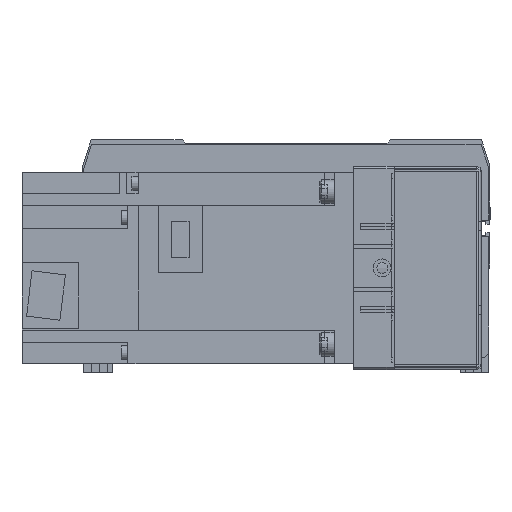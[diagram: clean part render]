
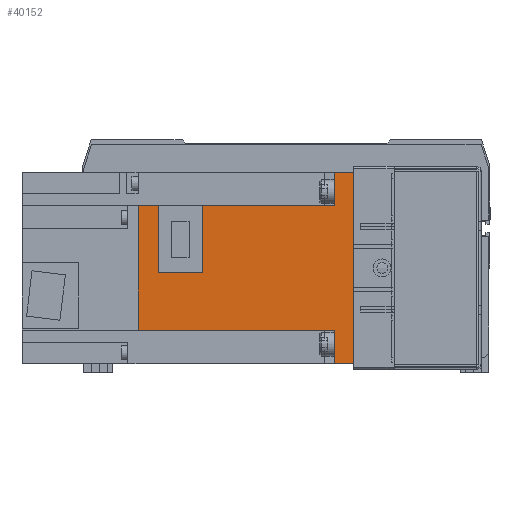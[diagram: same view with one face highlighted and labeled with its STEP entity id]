
A CAD part, front view. The second image highlights one B-rep face of the part: STEP entity #40152.
In plain terms, the highlighted planar face has unit normal (0, -1, 0) as drawn and (1, 0, 0) by its records, which use the part's own axes.
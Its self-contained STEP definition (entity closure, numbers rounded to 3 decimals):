
#324 = CARTESIAN_POINT ( 'NONE',  ( 40., 8., 40. ) ) ;
#798 = DIRECTION ( 'NONE',  ( 0., 0., 1. ) ) ;
#1024 = LINE ( 'NONE', #15017, #30533 ) ;
#2591 = EDGE_CURVE ( 'NONE', #36436, #36867, #36330, .T. ) ;
#3530 = CARTESIAN_POINT ( 'NONE',  ( 40., 62.8, 40. ) ) ;
#3852 = DIRECTION ( 'NONE',  ( 0., 1., 0. ) ) ;
#4168 = CARTESIAN_POINT ( 'NONE',  ( 40., 89.8, 40. ) ) ;
#4532 = VECTOR ( 'NONE', #41914, 1000. ) ;
#4734 = LINE ( 'NONE', #3530, #24259 ) ;
#4822 = CARTESIAN_POINT ( 'NONE',  ( 40., 89.8, -25.95 ) ) ;
#5340 = CARTESIAN_POINT ( 'NONE',  ( 40., 0., -40. ) ) ;
#5585 = VECTOR ( 'NONE', #20333, 1000. ) ;
#5866 = ORIENTED_EDGE ( 'NONE', *, *, #26599, .F. ) ;
#7113 = DIRECTION ( 'NONE',  ( 0., 0., -1. ) ) ;
#8688 = ORIENTED_EDGE ( 'NONE', *, *, #18345, .T. ) ;
#9291 = FACE_OUTER_BOUND ( 'NONE', #27279, .T. ) ;
#9350 = CARTESIAN_POINT ( 'NONE',  ( 40., 62.8, 1.8 ) ) ;
#9873 = LINE ( 'NONE', #21411, #24632 ) ;
#10822 = DIRECTION ( 'NONE',  ( -1., 0., 0. ) ) ;
#12056 = LINE ( 'NONE', #30069, #37915 ) ;
#12516 = EDGE_CURVE ( 'NONE', #36241, #23350, #40277, .T. ) ;
#12551 = CARTESIAN_POINT ( 'NONE',  ( 40., 8., 25.95 ) ) ;
#12663 = CARTESIAN_POINT ( 'NONE',  ( 40., 8., 40. ) ) ;
#13145 = LINE ( 'NONE', #15879, #35834 ) ;
#13915 = VECTOR ( 'NONE', #7113, 1000. ) ;
#14307 = VECTOR ( 'NONE', #25664, 1000. ) ;
#14366 = CARTESIAN_POINT ( 'NONE',  ( 40., 81.4, 1.8 ) ) ;
#14966 = ORIENTED_EDGE ( 'NONE', *, *, #17774, .F. ) ;
#15017 = CARTESIAN_POINT ( 'NONE',  ( 40., 89.8, -25.95 ) ) ;
#15053 = LINE ( 'NONE', #25370, #4532 ) ;
#15133 = AXIS2_PLACEMENT_3D ( 'NONE', #4168, #10822, #798 ) ;
#15312 = CARTESIAN_POINT ( 'NONE',  ( 40., 81.4, -25.95 ) ) ;
#15636 = VERTEX_POINT ( 'NONE', #12663 ) ;
#15879 = CARTESIAN_POINT ( 'NONE',  ( 40., 89.8, 25.95 ) ) ;
#15935 = DIRECTION ( 'NONE',  ( 0., 0., -1. ) ) ;
#16368 = ORIENTED_EDGE ( 'NONE', *, *, #19108, .F. ) ;
#16495 = DIRECTION ( 'NONE',  ( 0., 0., -1. ) ) ;
#16788 = CARTESIAN_POINT ( 'NONE',  ( 40., 8., -40. ) ) ;
#17631 = VERTEX_POINT ( 'NONE', #15312 ) ;
#17774 = EDGE_CURVE ( 'NONE', #19110, #36436, #13145, .T. ) ;
#18345 = EDGE_CURVE ( 'NONE', #40804, #40343, #12056, .T. ) ;
#18427 = CARTESIAN_POINT ( 'NONE',  ( 40., 0., 40. ) ) ;
#19043 = ORIENTED_EDGE ( 'NONE', *, *, #34010, .T. ) ;
#19108 = EDGE_CURVE ( 'NONE', #15636, #19110, #9873, .T. ) ;
#19110 = VERTEX_POINT ( 'NONE', #12551 ) ;
#19530 = VECTOR ( 'NONE', #38110, 1000. ) ;
#20333 = DIRECTION ( 'NONE',  ( 0., -1., 0. ) ) ;
#20640 = DIRECTION ( 'NONE',  ( 0., 0., -1. ) ) ;
#21013 = EDGE_CURVE ( 'NONE', #36867, #17631, #1024, .T. ) ;
#21411 = CARTESIAN_POINT ( 'NONE',  ( 40., 8., 40. ) ) ;
#23318 = ORIENTED_EDGE ( 'NONE', *, *, #40588, .F. ) ;
#23350 = VERTEX_POINT ( 'NONE', #16788 ) ;
#23873 = ORIENTED_EDGE ( 'NONE', *, *, #25374, .F. ) ;
#23959 = ORIENTED_EDGE ( 'NONE', *, *, #12516, .F. ) ;
#24250 = VERTEX_POINT ( 'NONE', #31376 ) ;
#24259 = VECTOR ( 'NONE', #30520, 1000. ) ;
#24361 = PLANE ( 'NONE',  #15133 ) ;
#24602 = DIRECTION ( 'NONE',  ( 0., -1., 0. ) ) ;
#24632 = VECTOR ( 'NONE', #15935, 1000. ) ;
#25032 = CARTESIAN_POINT ( 'NONE',  ( 40., 89.8, 25.95 ) ) ;
#25370 = CARTESIAN_POINT ( 'NONE',  ( 40., 89.8, 40. ) ) ;
#25374 = EDGE_CURVE ( 'NONE', #30061, #30200, #30114, .T. ) ;
#25585 = ORIENTED_EDGE ( 'NONE', *, *, #2591, .F. ) ;
#25664 = DIRECTION ( 'NONE',  ( 0., -1., 0. ) ) ;
#26198 = DIRECTION ( 'NONE',  ( 0., 1., 0. ) ) ;
#26599 = EDGE_CURVE ( 'NONE', #17631, #30061, #40076, .T. ) ;
#26864 = ORIENTED_EDGE ( 'NONE', *, *, #33317, .F. ) ;
#27279 = EDGE_LOOP ( 'NONE', ( #29728, #25585, #14966, #16368, #40813, #8688, #19043, #23959, #23318, #26864, #23873, #5866 ) ) ;
#29728 = ORIENTED_EDGE ( 'NONE', *, *, #21013, .F. ) ;
#30061 = VERTEX_POINT ( 'NONE', #14366 ) ;
#30069 = CARTESIAN_POINT ( 'NONE',  ( 40., 0., 0. ) ) ;
#30114 = LINE ( 'NONE', #32868, #14307 ) ;
#30200 = VERTEX_POINT ( 'NONE', #9350 ) ;
#30520 = DIRECTION ( 'NONE',  ( 0., 0., -1. ) ) ;
#30533 = VECTOR ( 'NONE', #24602, 1000. ) ;
#31376 = CARTESIAN_POINT ( 'NONE',  ( 40., 62.8, -25.95 ) ) ;
#32868 = CARTESIAN_POINT ( 'NONE',  ( 40., 89.8, 1.8 ) ) ;
#33317 = EDGE_CURVE ( 'NONE', #30200, #24250, #4734, .T. ) ;
#34010 = EDGE_CURVE ( 'NONE', #40343, #23350, #38929, .T. ) ;
#34294 = CARTESIAN_POINT ( 'NONE',  ( 40., 81.4, 40. ) ) ;
#34482 = CARTESIAN_POINT ( 'NONE',  ( 40., 8., -25.95 ) ) ;
#35834 = VECTOR ( 'NONE', #26198, 1000. ) ;
#36241 = VERTEX_POINT ( 'NONE', #34482 ) ;
#36330 = LINE ( 'NONE', #38030, #38968 ) ;
#36436 = VERTEX_POINT ( 'NONE', #25032 ) ;
#36867 = VERTEX_POINT ( 'NONE', #4822 ) ;
#37294 = VECTOR ( 'NONE', #3852, 1000. ) ;
#37907 = CARTESIAN_POINT ( 'NONE',  ( 40., 89.8, -40. ) ) ;
#37915 = VECTOR ( 'NONE', #16495, 1000. ) ;
#38030 = CARTESIAN_POINT ( 'NONE',  ( 40., 89.8, 40. ) ) ;
#38110 = DIRECTION ( 'NONE',  ( 0., 0., 1. ) ) ;
#38929 = LINE ( 'NONE', #37907, #37294 ) ;
#38968 = VECTOR ( 'NONE', #20640, 1000. ) ;
#40076 = LINE ( 'NONE', #34294, #19530 ) ;
#40152 = ADVANCED_FACE ( 'NONE', ( #9291 ), #24361, .F. ) ;
#40277 = LINE ( 'NONE', #324, #13915 ) ;
#40336 = EDGE_CURVE ( 'NONE', #40804, #15636, #15053, .T. ) ;
#40343 = VERTEX_POINT ( 'NONE', #5340 ) ;
#40588 = EDGE_CURVE ( 'NONE', #24250, #36241, #41968, .T. ) ;
#40804 = VERTEX_POINT ( 'NONE', #18427 ) ;
#40813 = ORIENTED_EDGE ( 'NONE', *, *, #40336, .F. ) ;
#41914 = DIRECTION ( 'NONE',  ( 0., 1., 0. ) ) ;
#41968 = LINE ( 'NONE', #43633, #5585 ) ;
#43633 = CARTESIAN_POINT ( 'NONE',  ( 40., 89.8, -25.95 ) ) ;
